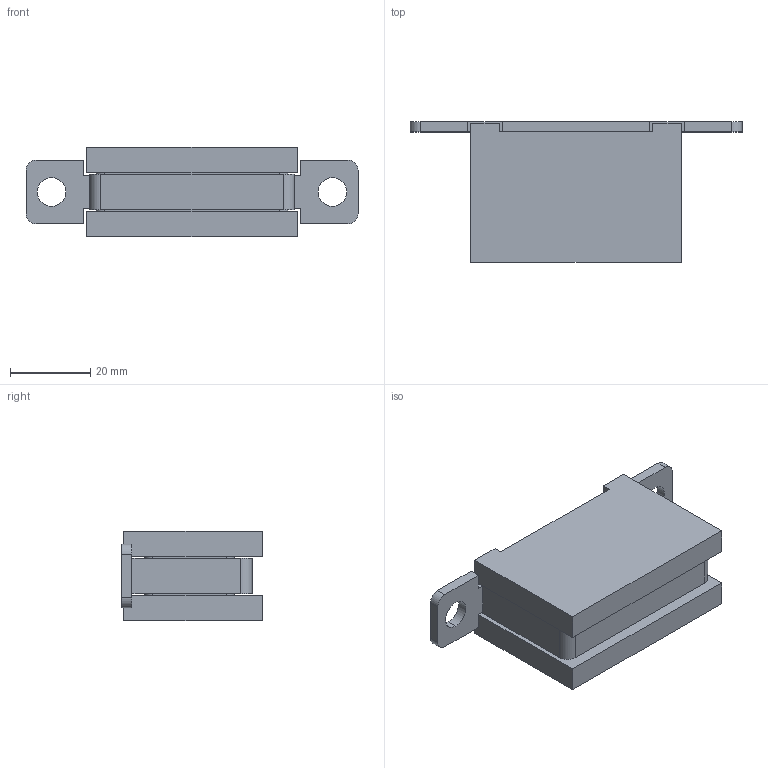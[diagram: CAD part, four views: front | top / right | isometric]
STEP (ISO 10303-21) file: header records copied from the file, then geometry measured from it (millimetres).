
FILE_DESCRIPTION (( 'STEP AP203' ), '1' );
FILE_NAME ('BP0040.STEP', '2018-07-26T20:03:17', ( '' ), ( '' ), 'SwSTEP 2.0', 'SolidWorks 2015', '' );
FILE_SCHEMA (( 'CONFIG_CONTROL_DESIGN' ));
Length unit declared in the file: inch
Products named in the file (1): BP0040
Bounding box: 82.55 x 34.92 x 22.23 mm (x, y, z)
Volume: 35907.7 mm3; surface area: 17574.6 mm2
Topology: 5 solids, 5 shells, 82 faces, 200 edges, 128 vertices
Faces by surface type: plane 66, cylinder 16
Entity records: 2447 total; most frequent: CARTESIAN_POINT 411, ORIENTED_EDGE 400, DIRECTION 398, EDGE_CURVE 200, VECTOR 168, LINE 168, VERTEX_POINT 128, AXIS2_PLACEMENT_3D 115
